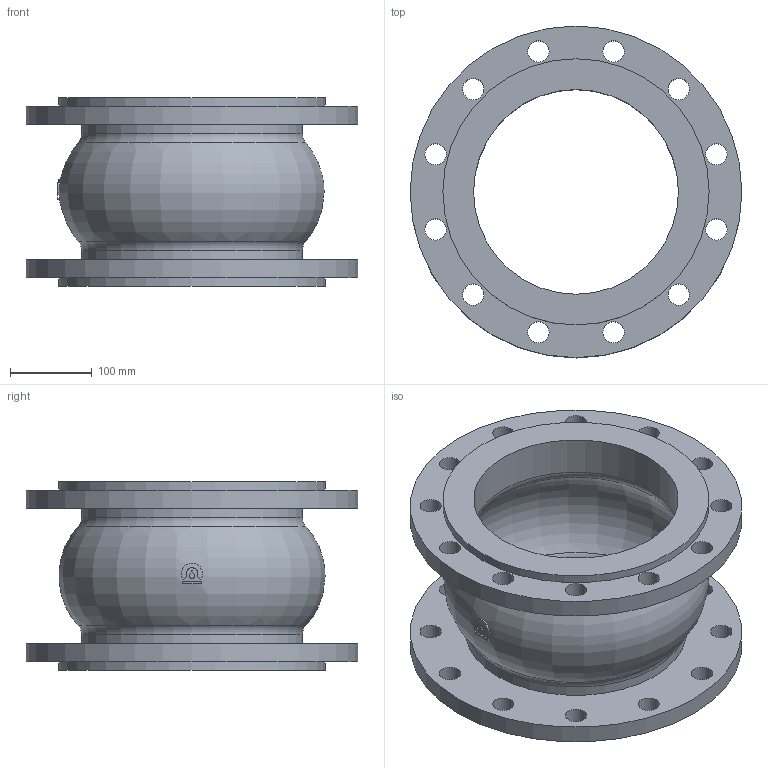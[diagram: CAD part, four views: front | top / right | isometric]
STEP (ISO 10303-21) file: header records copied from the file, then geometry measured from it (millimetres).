
FILE_DESCRIPTION(('STEP AP203'), '1');
FILE_NAME('Êîìïåíñàòîð KMS DN250 PN16_L230', '', ('UNSPECIFIED'), ('UNSPECIFIED'), 'ASCON STEP Converter 1.6', 'ASCON Math Kernel', '');
FILE_SCHEMA(('CONFIG_CONTROL_DESIGN'));
Length unit declared in the file: millimetre
Bounding box: 405 x 405 x 230 mm (x, y, z)
Volume: 5548424.5 mm3; surface area: 773790.1 mm2
Topology: 1 solids, 1 shells, 61 faces, 148 edges, 96 vertices
Faces by surface type: cylinder 39, plane 13, torus 9
Full cylindrical faces by diameter (mm): 26 x24, 250 x2, 270 x2, 325 x2, 405 x2
Entity records: 2969 total; most frequent: CARTESIAN_POINT 1036, DIRECTION 286, ORIENTED_EDGE 220, EDGE_LOOP 156, AXIS2_PLACEMENT_3D 136, EDGE_CURVE 110, VERTEX_POINT 96, FACE_BOUND 80
